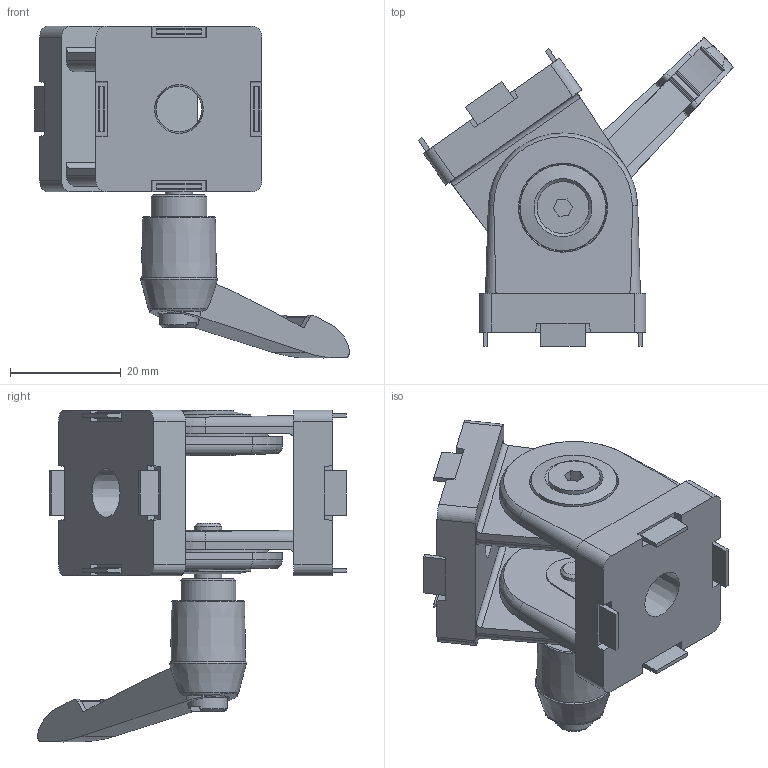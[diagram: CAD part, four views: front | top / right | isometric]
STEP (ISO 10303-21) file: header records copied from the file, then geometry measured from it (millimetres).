
FILE_DESCRIPTION(/* description */ ('STEP AP214'),/* implementation_level */ '2;1');
FILE_NAME(/* name */ '093GF30AN08(-35)',/* time_stamp */ '2023-07-03T07:27:14+02:00',/* author */ ('License CC BY-ND 4.0'),/* organization */ ('CADENAS'),/* preprocessor_version */ 'ST-DEVELOPER v19.3',/* originating_system */ 'PARTsolutions',/* authorisation */ ' ');
FILE_SCHEMA (('AUTOMOTIVE_DESIGN {1 0 10303 214 3 1 1}'));
Length unit declared in the file: millimetre
Products named in the file (7): 093GF30AN08(-35); 093GF30AN08_part_3; 093GF30AN08_part_5; 093GF30AN08_part_4; 093GF30AN08_part_2; 093GF30AN08_part_6; 093GF30AN08_part_1
Assembly tree (8 placements, depth 2):
  093GF30AN08(-35)
    093GF30AN08_part_3
    093GF30AN08_part_5  x2
    093GF30AN08_part_4  x2
    093GF30AN08_part_2
    093GF30AN08_part_6
    093GF30AN08_part_1
Bounding box: 56.92 x 55.82 x 60 mm (x, y, z)
Volume: 24695.4 mm3; surface area: 17358.4 mm2
Topology: 8 solids, 8 shells, 402 faces, 996 edges, 641 vertices
Faces by surface type: plane 195, cylinder 90, torus 60, cone 53, sphere 2, bspline 2
Full cylindrical faces by diameter (mm): 2.5 x4, 4 x1, 4.134 x2, 5 x2, 7 x1, 7.5 x2, 7.6 x1, 9.4 x1, 10 x1, 11.2 x2, 14 x2, 15.5 x2, 22 x2
Entity records: 10092 total; most frequent: CARTESIAN_POINT 2093, DIRECTION 1601, ORIENTED_EDGE 1548, EDGE_CURVE 774, AXIS2_PLACEMENT_3D 597, VERTEX_POINT 535, EDGE_LOOP 447, FACE_BOUND 447
